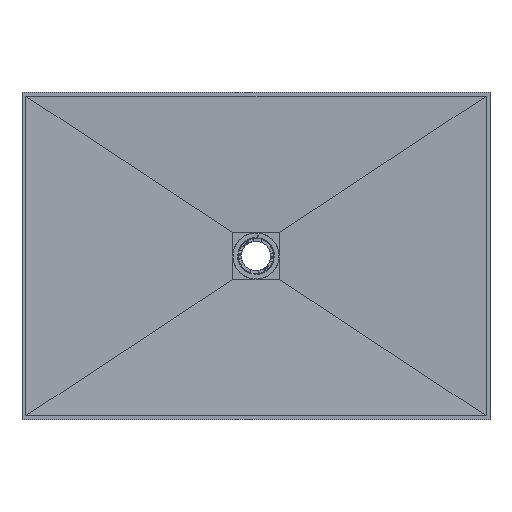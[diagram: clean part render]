
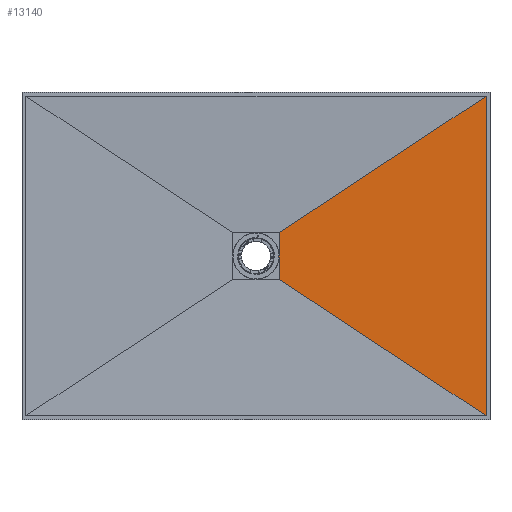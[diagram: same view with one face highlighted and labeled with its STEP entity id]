
A CAD part, top view. The second image highlights one B-rep face of the part: STEP entity #13140.
In plain terms, the highlighted planar face has unit normal (-0.026, 0, 1).
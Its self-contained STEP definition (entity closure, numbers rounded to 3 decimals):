
#2340=FACE_OUTER_BOUND('',#3085,.T.);
#3085=EDGE_LOOP('',(#8808,#8809,#8810,#8811));
#3894=LINE('',#18662,#4515);
#3900=LINE('',#18674,#4521);
#3902=LINE('',#18677,#4523);
#3903=LINE('',#18679,#4524);
#4515=VECTOR('',#15360,10.);
#4521=VECTOR('',#15368,10.);
#4523=VECTOR('',#15372,10.);
#4524=VECTOR('',#15375,10.);
#5133=VERTEX_POINT('',#18659);
#5134=VERTEX_POINT('',#18661);
#5137=VERTEX_POINT('',#18668);
#5139=VERTEX_POINT('',#18672);
#6601=EDGE_CURVE('',#5133,#5134,#3894,.F.);
#6607=EDGE_CURVE('',#5137,#5139,#3900,.F.);
#6609=EDGE_CURVE('',#5133,#5137,#3902,.T.);
#6610=EDGE_CURVE('',#5134,#5139,#3903,.T.);
#8808=ORIENTED_EDGE('',*,*,#6601,.F.);
#8809=ORIENTED_EDGE('',*,*,#6609,.T.);
#8810=ORIENTED_EDGE('',*,*,#6607,.T.);
#8811=ORIENTED_EDGE('',*,*,#6610,.F.);
#13070=PLANE('',#13973);
#13140=ADVANCED_FACE('',(#2340),#13070,.F.);
#13973=AXIS2_PLACEMENT_3D('',#18678,#15373,#15374);
#15360=DIRECTION('',(0.,1.,0.));
#15368=DIRECTION('',(0.,1.,0.));
#15372=DIRECTION('',(-0.834,-0.551,-0.022));
#15373=DIRECTION('center_axis',(0.026,0.,-1.));
#15374=DIRECTION('ref_axis',(-1.,0.,-0.026));
#15375=DIRECTION('',(-0.834,0.551,-0.022));
#18659=CARTESIAN_POINT('',(746.284,65.675,20.));
#18661=CARTESIAN_POINT('',(746.284,-975.675,20.));
#18662=CARTESIAN_POINT('',(746.284,32.85,20.));
#18668=CARTESIAN_POINT('',(73.484,-378.525,2.5));
#18672=CARTESIAN_POINT('',(73.484,-531.475,2.5));
#18674=CARTESIAN_POINT('',(73.484,-194.65,2.5));
#18677=CARTESIAN_POINT('',(224.696,-278.69,6.433));
#18678=CARTESIAN_POINT('Origin',(746.267,65.7,20.));
#18679=CARTESIAN_POINT('',(506.979,-817.68,13.776));
